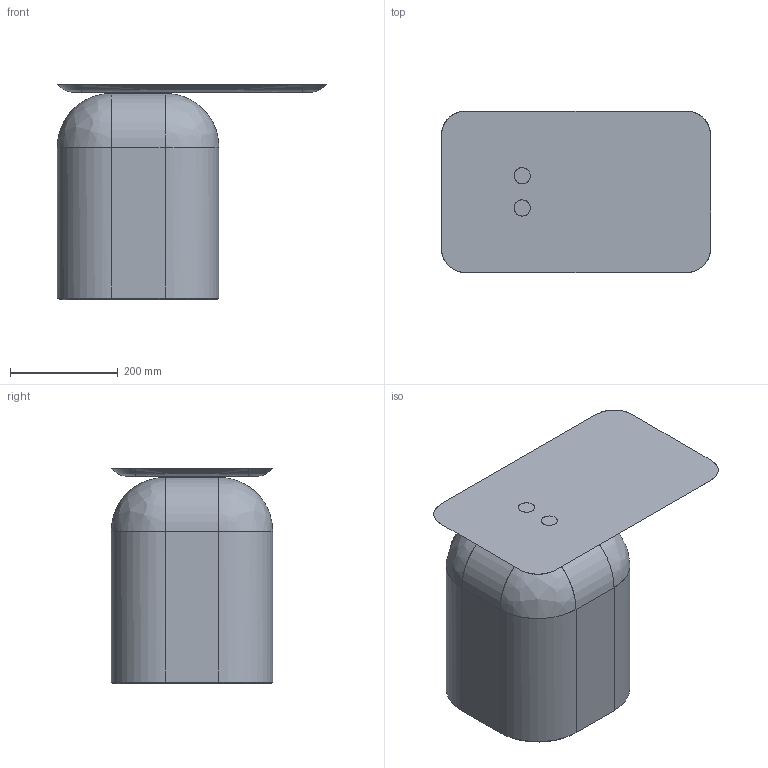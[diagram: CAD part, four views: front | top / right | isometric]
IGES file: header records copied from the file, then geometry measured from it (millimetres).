
Global section: file name: C:\Users\Timo Mikkonen\Desktop\Nikari 3d. tiedostot rfa\COFFEE TABLES\iges\April 2 Coffee Table 500x300 H400.igs; native system: Rhinoceros ( Sep  8 2025 ); preprocessor: Trout Lake IGES 012 Sep  8 2025; date: 250924.062903; units: millimetre
Bounding box: 500 x 300 x 400 mm (x, y, z)
Surface area: 1082364.5 mm2 (no closed solid volume)
Topology: 0 solids, 0 shells, 67 faces, 340 edges, 338 vertices
Faces by surface type: bspline 67
